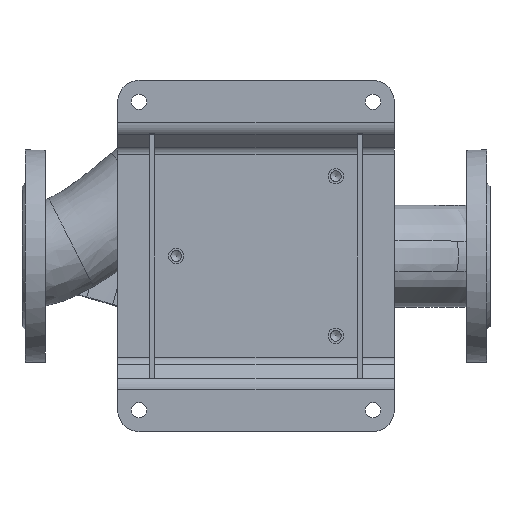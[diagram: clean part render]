
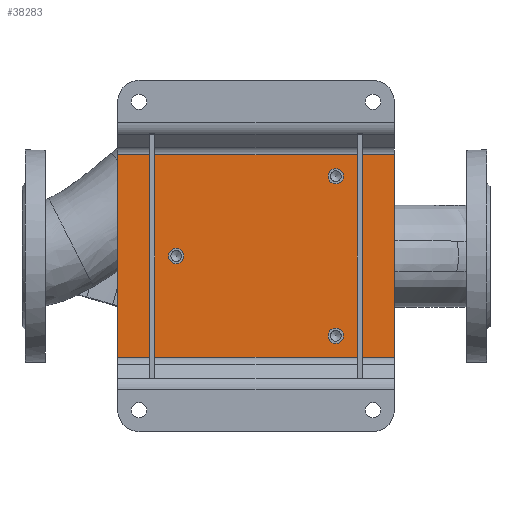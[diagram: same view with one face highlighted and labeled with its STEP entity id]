
A CAD part, top view. The second image highlights one B-rep face of the part: STEP entity #38283.
In plain terms, the highlighted planar face has unit normal (0, 0, 1) as drawn and (0, -1, 0) by its records, which use the part's own axes.
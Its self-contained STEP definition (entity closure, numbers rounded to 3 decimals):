
#1535 = DIRECTION ( 'NONE',  ( 0., 0., -1. ) ) ;
#4331 = AXIS2_PLACEMENT_3D ( 'NONE', #32615, #59803, #1535 ) ;
#4598 = CARTESIAN_POINT ( 'NONE',  ( -95., -5., -130. ) ) ;
#5532 = DIRECTION ( 'NONE',  ( 0., 0., -1. ) ) ;
#6183 = FACE_BOUND ( 'NONE', #19938, .T. ) ;
#9199 = EDGE_CURVE ( 'NONE', #49701, #49701, #81529, .T. ) ;
#9999 = CARTESIAN_POINT ( 'NONE',  ( 95., -5., 130. ) ) ;
#10438 = VECTOR ( 'NONE', #73975, 1000. ) ;
#13043 = CARTESIAN_POINT ( 'NONE',  ( -95., -5., 130. ) ) ;
#15169 = EDGE_CURVE ( 'NONE', #23742, #23742, #24679, .T. ) ;
#15580 = VERTEX_POINT ( 'NONE', #74718 ) ;
#17525 = VECTOR ( 'NONE', #71351, 1000. ) ;
#19430 = LINE ( 'NONE', #45037, #17525 ) ;
#19938 = EDGE_LOOP ( 'NONE', ( #31347 ) ) ;
#20520 = CARTESIAN_POINT ( 'NONE',  ( -95., -5., 130. ) ) ;
#20857 = EDGE_CURVE ( 'NONE', #62318, #44363, #68293, .T. ) ;
#21603 = ORIENTED_EDGE ( 'NONE', *, *, #20857, .F. ) ;
#21620 = ORIENTED_EDGE ( 'NONE', *, *, #61894, .F. ) ;
#22501 = CARTESIAN_POINT ( 'NONE',  ( -95., -5., -130. ) ) ;
#23742 = VERTEX_POINT ( 'NONE', #42935 ) ;
#24679 = CIRCLE ( 'NONE', #4331, 7.25 ) ;
#24879 = VECTOR ( 'NONE', #54264, 1000. ) ;
#26512 = EDGE_CURVE ( 'NONE', #66109, #74881, #71331, .T. ) ;
#27440 = ORIENTED_EDGE ( 'NONE', *, *, #26512, .F. ) ;
#28031 = AXIS2_PLACEMENT_3D ( 'NONE', #58081, #37261, #84003 ) ;
#30447 = FACE_BOUND ( 'NONE', #46871, .T. ) ;
#31347 = ORIENTED_EDGE ( 'NONE', *, *, #9199, .F. ) ;
#31363 = ORIENTED_EDGE ( 'NONE', *, *, #63404, .F. ) ;
#31741 = VECTOR ( 'NONE', #38201, 1000. ) ;
#32615 = CARTESIAN_POINT ( 'NONE',  ( 75., -5., 75. ) ) ;
#33312 = ORIENTED_EDGE ( 'NONE', *, *, #57144, .F. ) ;
#33431 = CIRCLE ( 'NONE', #80965, 7.25 ) ;
#37136 = DIRECTION ( 'NONE',  ( 0., 0., -1. ) ) ;
#37261 = DIRECTION ( 'NONE',  ( 0., -1., 0. ) ) ;
#37882 = DIRECTION ( 'NONE',  ( 0., -1., 0. ) ) ;
#38201 = DIRECTION ( 'NONE',  ( 0., 0., 1. ) ) ;
#38283 = ADVANCED_FACE ( 'NONE', ( #57657, #6183, #30447, #38531 ), #43672, .T. ) ;
#38531 = FACE_OUTER_BOUND ( 'NONE', #42488, .T. ) ;
#41907 = CARTESIAN_POINT ( 'NONE',  ( 0., -5., -75. ) ) ;
#42488 = EDGE_LOOP ( 'NONE', ( #21603, #21620, #27440, #31363 ) ) ;
#42935 = CARTESIAN_POINT ( 'NONE',  ( 75., -5., 67.75 ) ) ;
#43672 = PLANE ( 'NONE',  #28031 ) ;
#44363 = VERTEX_POINT ( 'NONE', #64700 ) ;
#45037 = CARTESIAN_POINT ( 'NONE',  ( -95., -5., 130. ) ) ;
#45503 = EDGE_LOOP ( 'NONE', ( #61209 ) ) ;
#46871 = EDGE_LOOP ( 'NONE', ( #33312 ) ) ;
#49388 = CARTESIAN_POINT ( 'NONE',  ( 95., -5., 130. ) ) ;
#49701 = VERTEX_POINT ( 'NONE', #81188 ) ;
#54264 = DIRECTION ( 'NONE',  ( 0., 0., -1. ) ) ;
#55025 = CARTESIAN_POINT ( 'NONE',  ( -75., -5., 75. ) ) ;
#57144 = EDGE_CURVE ( 'NONE', #15580, #15580, #33431, .T. ) ;
#57657 = FACE_BOUND ( 'NONE', #45503, .T. ) ;
#58081 = CARTESIAN_POINT ( 'NONE',  ( 0., -5., 0. ) ) ;
#59803 = DIRECTION ( 'NONE',  ( 0., -1., 0. ) ) ;
#61209 = ORIENTED_EDGE ( 'NONE', *, *, #15169, .F. ) ;
#61894 = EDGE_CURVE ( 'NONE', #74881, #62318, #19430, .T. ) ;
#62318 = VERTEX_POINT ( 'NONE', #49388 ) ;
#63404 = EDGE_CURVE ( 'NONE', #44363, #66109, #75632, .T. ) ;
#64700 = CARTESIAN_POINT ( 'NONE',  ( 95., -5., -130. ) ) ;
#65198 = AXIS2_PLACEMENT_3D ( 'NONE', #41907, #74185, #37136 ) ;
#66109 = VERTEX_POINT ( 'NONE', #4598 ) ;
#68293 = LINE ( 'NONE', #9999, #24879 ) ;
#71331 = LINE ( 'NONE', #13043, #31741 ) ;
#71351 = DIRECTION ( 'NONE',  ( 1., 0., 0. ) ) ;
#73975 = DIRECTION ( 'NONE',  ( -1., 0., 0. ) ) ;
#74185 = DIRECTION ( 'NONE',  ( 0., -1., 0. ) ) ;
#74718 = CARTESIAN_POINT ( 'NONE',  ( -75., -5., 67.75 ) ) ;
#74881 = VERTEX_POINT ( 'NONE', #20520 ) ;
#75632 = LINE ( 'NONE', #22501, #10438 ) ;
#80965 = AXIS2_PLACEMENT_3D ( 'NONE', #55025, #37882, #5532 ) ;
#81188 = CARTESIAN_POINT ( 'NONE',  ( 0., -5., -82.25 ) ) ;
#81529 = CIRCLE ( 'NONE', #65198, 7.25 ) ;
#84003 = DIRECTION ( 'NONE',  ( 0., 0., -1. ) ) ;
